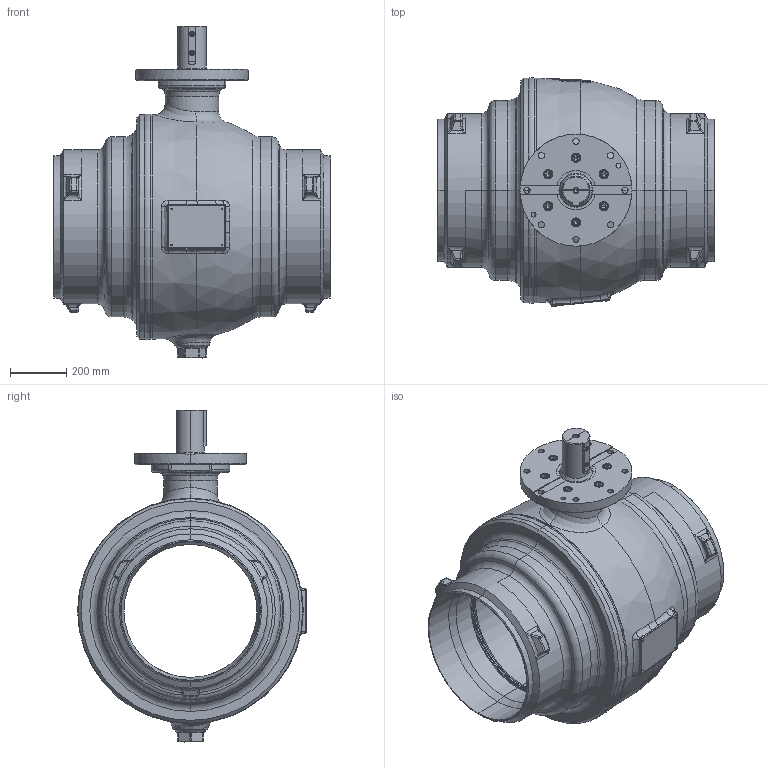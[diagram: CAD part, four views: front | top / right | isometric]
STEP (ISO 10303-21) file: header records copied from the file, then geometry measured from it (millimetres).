
FILE_DESCRIPTION((''),'2;1');
FILE_NAME('KHSVI_500_VVS_FR_WE','2026-01-27T14:13:19',('schwaba'),('KLINGER'),'CREO PARAMETRIC BY PTC INC, 2023014','CREO PARAMETRIC BY PTC INC, 2023014','');
FILE_SCHEMA(('CONFIG_CONTROL_DESIGN'));
Products named in the file (1): KHSVI_500_VVS_FR_WE
Bounding box: 991 x 816.84 x 1185.5 mm (x, y, z)
Volume: 117706691.3 mm3; surface area: 8995916.2 mm2
Topology: 1 solids, 9 shells, 1605 faces, 4009 edges, 2465 vertices
Faces by surface type: plane 696, cylinder 321, bspline 188, cone 178, torus 176, sphere 46
Entity records: 117518 total; most frequent: CARTESIAN_POINT 81153, ORIENTED_EDGE 7946, DIRECTION 7205, EDGE_CURVE 3973, AXIS2_PLACEMENT_3D 2994, VERTEX_POINT 2465, EDGE_LOOP 1750, FACE_OUTER_BOUND 1605
